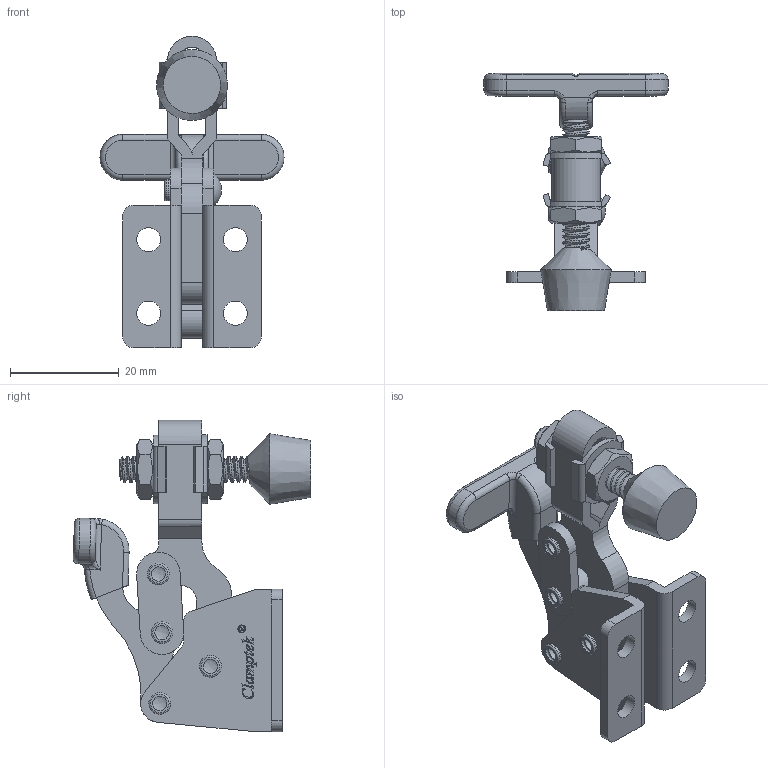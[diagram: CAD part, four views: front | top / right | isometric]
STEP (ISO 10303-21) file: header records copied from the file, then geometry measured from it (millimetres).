
FILE_DESCRIPTION(/* description */ ('STEP AP203'),/* implementation_level */ '2;1');
FILE_NAME(/* name */ 'D:\Vault_2016\Projekty\STRONA\Vertical toggle clamp\Do zrobienia 3\CH-13005\CH-13005_ZAMKNIETY.stp',/* time_stamp */ '2019-01-22T13:52:44+01:00',/* author */ ('user'),/* organization */ ('Î¢ÈíÖÐ¹ú'),/* preprocessor_version */ 'ST-DEVELOPER v17.2',/* originating_system */ 'Autodesk Inventor 2019',/* authorisation */ '');
FILE_SCHEMA (('AUTOMOTIVE_DESIGN { 1 0 10303 214 3 1 1 }'));
Length unit declared in the file: millimetre
Products named in the file (9): CH-13005; CH-13005-03 T-HANDLE; CH-13005-01 FLANGED BASE; CH-13005-02 U-BAR; CH-13005-04 CONNECTING-PLATE; CH-FC-10138 SPINDLE SUPPLIED; CH-13005-05 ; CH-FW-100; CH-FC-10138 Nut
Assembly tree (14 placements, depth 2):
  CH-13005
    CH-13005-04 CONNECTING-PLATE  x2
    CH-13005-03 T-HANDLE
    CH-13005-01 FLANGED BASE
    CH-13005-02 U-BAR
    CH-FW-100  x2
    CH-13005-05   x4
    CH-FC-10138 SPINDLE SUPPLIED
    CH-FC-10138 Nut  x2
Bounding box: 33.8 x 43.59 x 57.2 mm (x, y, z)
Volume: 9442.3 mm3; surface area: 10501.6 mm2
Topology: 15 solids, 16 shells, 602 faces, 1651 edges, 1110 vertices
Faces by surface type: plane 248, bspline 196, cylinder 123, torus 19, cone 12, sphere 4
Full cylindrical faces by diameter (mm): 1.219 x1, 1.442 x1, 3 x16, 3.8 x4, 4 x4, 4.4 x4, 4.8 x19, 4.9 x2, 9.526 x1
Entity records: 35603 total; most frequent: CARTESIAN_POINT 22720, ORIENTED_EDGE 2946, DIRECTION 1979, EDGE_CURVE 1473, VERTEX_POINT 987, LINE 779, VECTOR 779, AXIS2_PLACEMENT_3D 600
